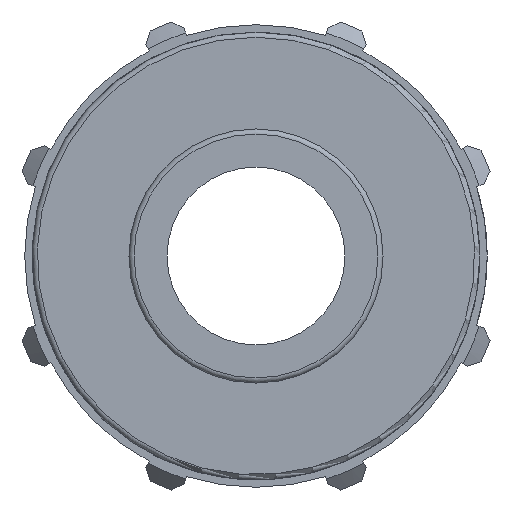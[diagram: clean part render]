
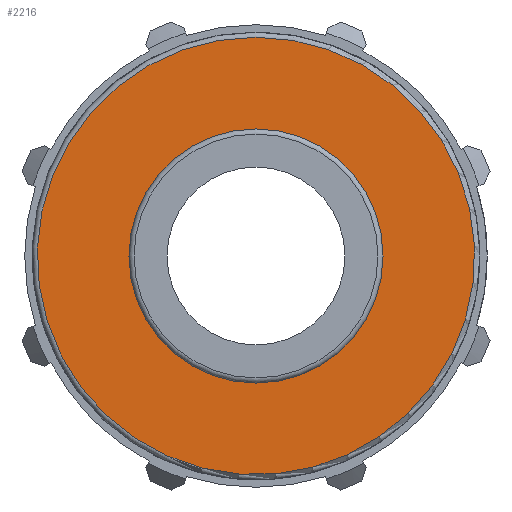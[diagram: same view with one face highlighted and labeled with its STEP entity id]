
A CAD part, left-side view. The second image highlights one B-rep face of the part: STEP entity #2216.
In plain terms, the highlighted planar face has unit normal (-1, 0, 0).
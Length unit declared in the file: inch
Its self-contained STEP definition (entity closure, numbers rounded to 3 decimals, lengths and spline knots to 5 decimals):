
#422=FACE_BOUND('',#639,.T.);
#435=PLANE('',#2401);
#514=FACE_OUTER_BOUND('',#638,.T.);
#638=EDGE_LOOP('',(#1534,#1535));
#639=EDGE_LOOP('',(#1536,#1537));
#746=CIRCLE('',#2341,0.825);
#747=CIRCLE('',#2342,0.825);
#784=CIRCLE('',#2399,1.42035);
#785=CIRCLE('',#2400,1.42035);
#863=VERTEX_POINT('',#3209);
#864=VERTEX_POINT('',#3210);
#930=VERTEX_POINT('',#3599);
#931=VERTEX_POINT('',#3601);
#1087=EDGE_CURVE('',#863,#864,#746,.T.);
#1088=EDGE_CURVE('',#864,#863,#747,.T.);
#1175=EDGE_CURVE('',#930,#931,#784,.T.);
#1176=EDGE_CURVE('',#931,#930,#785,.T.);
#1534=ORIENTED_EDGE('',*,*,#1176,.F.);
#1535=ORIENTED_EDGE('',*,*,#1175,.F.);
#1536=ORIENTED_EDGE('',*,*,#1087,.T.);
#1537=ORIENTED_EDGE('',*,*,#1088,.T.);
#2216=ADVANCED_FACE('',(#514,#422),#435,.T.);
#2341=AXIS2_PLACEMENT_3D('',#3211,#2589,#2590);
#2342=AXIS2_PLACEMENT_3D('',#3212,#2591,#2592);
#2399=AXIS2_PLACEMENT_3D('',#3602,#2731,#2732);
#2400=AXIS2_PLACEMENT_3D('',#3603,#2733,#2734);
#2401=AXIS2_PLACEMENT_3D('',#3604,#2735,#2736);
#2589=DIRECTION('center_axis',(1.,0.,0.));
#2590=DIRECTION('ref_axis',(0.,0.,-1.));
#2591=DIRECTION('center_axis',(1.,0.,0.));
#2592=DIRECTION('ref_axis',(0.,0.,-1.));
#2731=DIRECTION('center_axis',(1.,0.,0.));
#2732=DIRECTION('ref_axis',(0.,-0.552,0.834));
#2733=DIRECTION('center_axis',(1.,0.,0.));
#2734=DIRECTION('ref_axis',(0.,-0.552,0.834));
#2735=DIRECTION('center_axis',(-1.,0.,0.));
#2736=DIRECTION('ref_axis',(0.,0.,1.));
#3209=CARTESIAN_POINT('',(0.87,0.825,0.));
#3210=CARTESIAN_POINT('',(0.87,-0.825,0.));
#3211=CARTESIAN_POINT('Origin',(0.87,0.,0.));
#3212=CARTESIAN_POINT('Origin',(0.87,0.,0.));
#3599=CARTESIAN_POINT('',(0.87,0.,1.42035));
#3601=CARTESIAN_POINT('',(0.87,0.78363,-1.18461));
#3602=CARTESIAN_POINT('Origin',(0.87,0.,0.));
#3603=CARTESIAN_POINT('Origin',(0.87,0.,0.));
#3604=CARTESIAN_POINT('Origin',(0.87,1.4535,0.));
